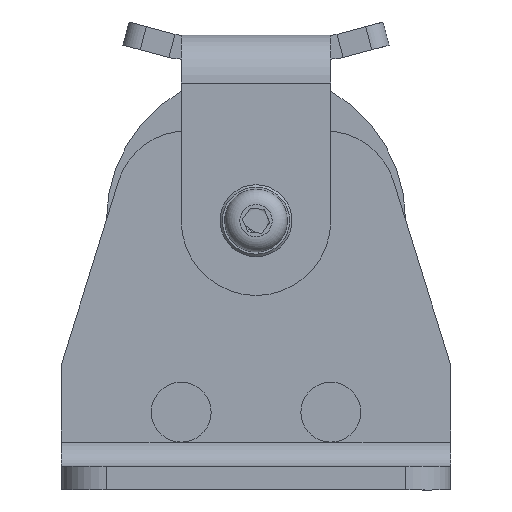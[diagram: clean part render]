
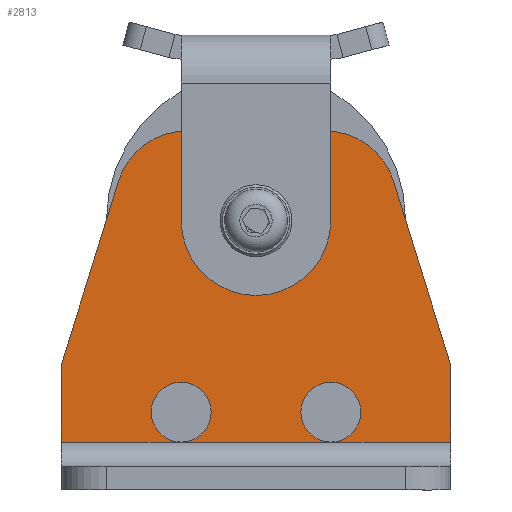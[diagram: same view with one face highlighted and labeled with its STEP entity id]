
A CAD part, front view. The second image highlights one B-rep face of the part: STEP entity #2813.
In plain terms, the highlighted planar face has unit normal (0, -1, 0) as drawn and (0, 0, 1) by its records, which use the part's own axes.
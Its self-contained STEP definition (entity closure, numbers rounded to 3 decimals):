
#211=FACE_BOUND('',#529,.T.);
#269=PLANE('',#3314);
#359=FACE_OUTER_BOUND('',#528,.T.);
#528=EDGE_LOOP('',(#2079,#2080,#2081,#2082,#2083,#2084,#2085,#2086,#2087,
#2088,#2089,#2090,#2091,#2092));
#529=EDGE_LOOP('',(#2093));
#738=LINE('',#4738,#902);
#739=LINE('',#4740,#903);
#740=LINE('',#4741,#904);
#743=LINE('',#4747,#907);
#751=LINE('',#4785,#915);
#755=LINE('',#4794,#919);
#758=LINE('',#4801,#922);
#759=LINE('',#4803,#923);
#902=VECTOR('',#3767,10.);
#903=VECTOR('',#3768,10.);
#904=VECTOR('',#3769,10.);
#907=VECTOR('',#3774,10.);
#915=VECTOR('',#3816,10.);
#919=VECTOR('',#3826,10.);
#922=VECTOR('',#3835,10.);
#923=VECTOR('',#3838,10.);
#1054=CIRCLE('',#3299,5.);
#1055=CIRCLE('',#3300,5.);
#1056=CIRCLE('',#3302,5.);
#1057=CIRCLE('',#3303,5.);
#1058=CIRCLE('',#3305,3.25);
#1059=CIRCLE('',#3308,12.);
#1060=CIRCLE('',#3311,12.);
#1268=VERTEX_POINT('',#4728);
#1269=VERTEX_POINT('',#4732);
#1270=VERTEX_POINT('',#4737);
#1271=VERTEX_POINT('',#4739);
#1273=VERTEX_POINT('',#4745);
#1282=VERTEX_POINT('',#4769);
#1283=VERTEX_POINT('',#4774);
#1284=VERTEX_POINT('',#4779);
#1285=VERTEX_POINT('',#4783);
#1286=VERTEX_POINT('',#4784);
#1287=VERTEX_POINT('',#4789);
#1288=VERTEX_POINT('',#4793);
#1289=VERTEX_POINT('',#4797);
#1567=EDGE_CURVE('',#1270,#1269,#738,.T.);
#1568=EDGE_CURVE('',#1271,#1270,#739,.T.);
#1569=EDGE_CURVE('',#1268,#1271,#740,.T.);
#1572=EDGE_CURVE('',#1273,#1269,#743,.T.);
#1585=EDGE_CURVE('',#1270,#1282,#1054,.T.);
#1586=EDGE_CURVE('',#1282,#1270,#1055,.T.);
#1588=EDGE_CURVE('',#1271,#1283,#1056,.T.);
#1589=EDGE_CURVE('',#1283,#1271,#1057,.T.);
#1591=EDGE_CURVE('',#1284,#1284,#1058,.T.);
#1592=EDGE_CURVE('',#1285,#1286,#751,.T.);
#1595=EDGE_CURVE('',#1286,#1287,#1059,.T.);
#1597=EDGE_CURVE('',#1287,#1288,#755,.T.);
#1599=EDGE_CURVE('',#1288,#1289,#1060,.T.);
#1601=EDGE_CURVE('',#1289,#1273,#758,.T.);
#1602=EDGE_CURVE('',#1268,#1285,#759,.T.);
#2079=ORIENTED_EDGE('',*,*,#1567,.T.);
#2080=ORIENTED_EDGE('',*,*,#1572,.F.);
#2081=ORIENTED_EDGE('',*,*,#1601,.F.);
#2082=ORIENTED_EDGE('',*,*,#1599,.F.);
#2083=ORIENTED_EDGE('',*,*,#1597,.F.);
#2084=ORIENTED_EDGE('',*,*,#1595,.F.);
#2085=ORIENTED_EDGE('',*,*,#1592,.F.);
#2086=ORIENTED_EDGE('',*,*,#1602,.F.);
#2087=ORIENTED_EDGE('',*,*,#1569,.T.);
#2088=ORIENTED_EDGE('',*,*,#1588,.T.);
#2089=ORIENTED_EDGE('',*,*,#1589,.T.);
#2090=ORIENTED_EDGE('',*,*,#1568,.T.);
#2091=ORIENTED_EDGE('',*,*,#1585,.T.);
#2092=ORIENTED_EDGE('',*,*,#1586,.T.);
#2093=ORIENTED_EDGE('',*,*,#1591,.T.);
#2813=ADVANCED_FACE('',(#359,#211),#269,.T.);
#3299=AXIS2_PLACEMENT_3D('',#4771,#3798,#3799);
#3300=AXIS2_PLACEMENT_3D('',#4772,#3800,#3801);
#3302=AXIS2_PLACEMENT_3D('',#4776,#3805,#3806);
#3303=AXIS2_PLACEMENT_3D('',#4777,#3807,#3808);
#3305=AXIS2_PLACEMENT_3D('',#4781,#3812,#3813);
#3308=AXIS2_PLACEMENT_3D('',#4790,#3821,#3822);
#3311=AXIS2_PLACEMENT_3D('',#4798,#3830,#3831);
#3314=AXIS2_PLACEMENT_3D('',#4804,#3839,#3840);
#3767=DIRECTION('',(1.,0.,0.));
#3768=DIRECTION('',(1.,0.,0.));
#3769=DIRECTION('',(1.,0.,0.));
#3774=DIRECTION('',(0.,-1.,0.));
#3798=DIRECTION('center_axis',(0.,0.,-1.));
#3799=DIRECTION('ref_axis',(-1.,0.,0.));
#3800=DIRECTION('center_axis',(0.,0.,-1.));
#3801=DIRECTION('ref_axis',(-1.,0.,0.));
#3805=DIRECTION('center_axis',(0.,0.,-1.));
#3806=DIRECTION('ref_axis',(-1.,0.,0.));
#3807=DIRECTION('center_axis',(0.,0.,-1.));
#3808=DIRECTION('ref_axis',(-1.,0.,0.));
#3812=DIRECTION('center_axis',(0.,0.,-1.));
#3813=DIRECTION('ref_axis',(-1.,0.,0.));
#3816=DIRECTION('',(0.297,0.955,0.));
#3821=DIRECTION('center_axis',(0.,0.,-1.));
#3822=DIRECTION('ref_axis',(0.,1.,0.));
#3826=DIRECTION('',(1.,0.,0.));
#3830=DIRECTION('center_axis',(0.,0.,-1.));
#3831=DIRECTION('ref_axis',(0.955,0.297,0.));
#3835=DIRECTION('',(0.297,-0.955,0.));
#3838=DIRECTION('',(0.,1.,0.));
#3839=DIRECTION('center_axis',(0.,0.,1.));
#3840=DIRECTION('ref_axis',(1.,0.,0.));
#4728=CARTESIAN_POINT('',(-32.5,8.,4.));
#4732=CARTESIAN_POINT('',(32.5,8.,4.));
#4737=CARTESIAN_POINT('',(12.5,8.,4.));
#4738=CARTESIAN_POINT('',(16.25,8.,4.));
#4739=CARTESIAN_POINT('',(-12.5,8.,4.));
#4740=CARTESIAN_POINT('',(16.25,8.,4.));
#4741=CARTESIAN_POINT('',(16.25,8.,4.));
#4745=CARTESIAN_POINT('',(32.5,21.,4.));
#4747=CARTESIAN_POINT('',(32.5,0.,4.));
#4769=CARTESIAN_POINT('',(17.5,13.,4.));
#4771=CARTESIAN_POINT('Origin',(12.5,13.,4.));
#4772=CARTESIAN_POINT('Origin',(12.5,13.,4.));
#4774=CARTESIAN_POINT('',(-7.5,13.,4.));
#4776=CARTESIAN_POINT('Origin',(-12.5,13.,4.));
#4777=CARTESIAN_POINT('Origin',(-12.5,13.,4.));
#4779=CARTESIAN_POINT('',(3.25,45.,4.));
#4781=CARTESIAN_POINT('Origin',(0.,45.,4.));
#4783=CARTESIAN_POINT('',(-32.5,21.,4.));
#4784=CARTESIAN_POINT('',(-22.984,51.567,4.));
#4785=CARTESIAN_POINT('',(-22.984,51.567,4.));
#4789=CARTESIAN_POINT('',(-11.526,60.,4.));
#4790=CARTESIAN_POINT('Origin',(-11.526,48.,4.));
#4793=CARTESIAN_POINT('',(11.526,60.,4.));
#4794=CARTESIAN_POINT('',(11.526,60.,4.));
#4797=CARTESIAN_POINT('',(22.984,51.567,4.));
#4798=CARTESIAN_POINT('Origin',(11.526,48.,4.));
#4801=CARTESIAN_POINT('',(32.5,21.,4.));
#4803=CARTESIAN_POINT('',(-32.5,21.,4.));
#4804=CARTESIAN_POINT('Origin',(0.,26.189,4.));
